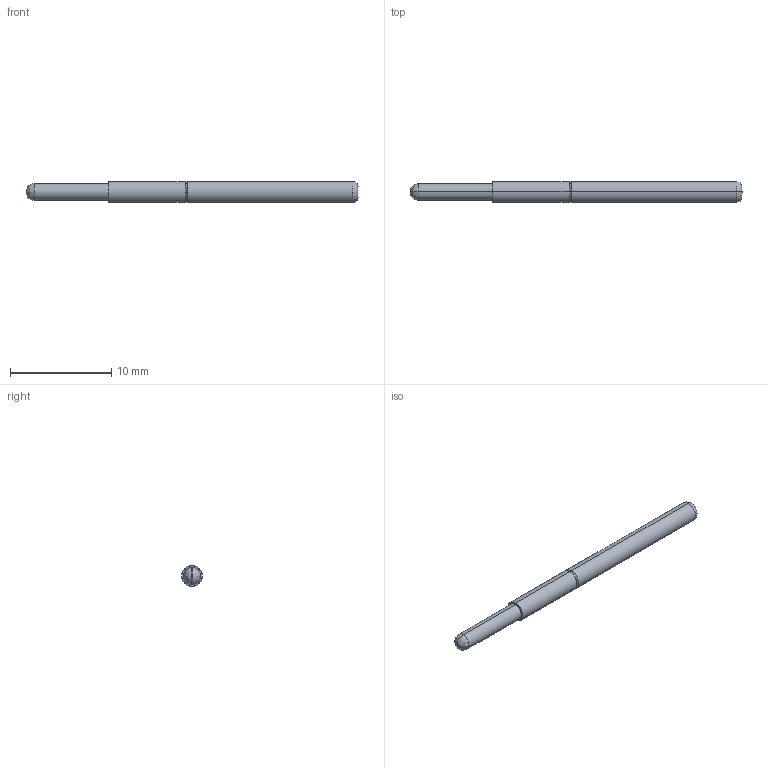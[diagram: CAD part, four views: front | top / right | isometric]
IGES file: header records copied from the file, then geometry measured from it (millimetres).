
Start section: SolidWorks IGES file using analytic representation for surfaces
Global section: file name: O:\PYLON\IGES FILES\P2665\P2665G-1R1S.IGS; native system: SolidWorks 2015; preprocessor: SolidWorks 2015; author: kgolden; date: 171019.133043; units: inch
Bounding box: 32.76 x 2.03 x 2.03 mm (x, y, z)
Surface area: 212.7 mm2 (no closed solid volume)
Topology: 0 solids, 0 shells, 19 faces, 136 edges, 136 vertices
Faces by surface type: bspline 11, revolution 8
